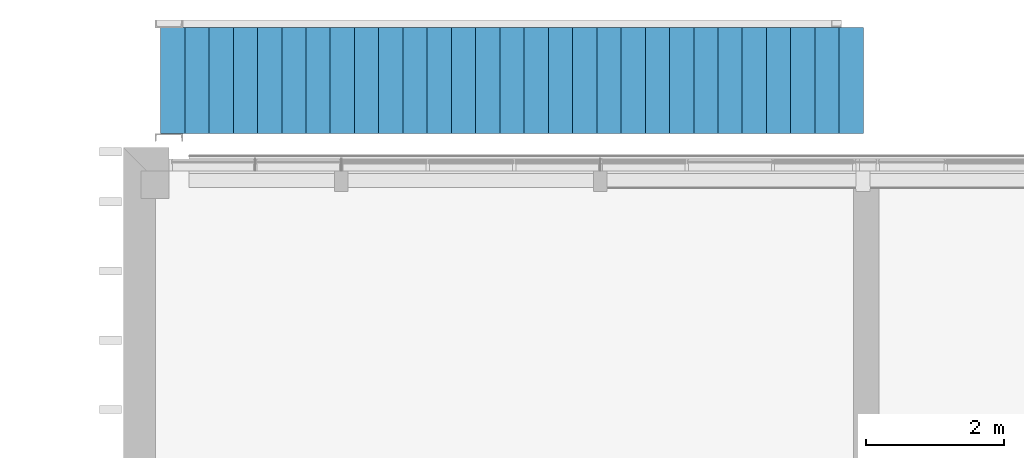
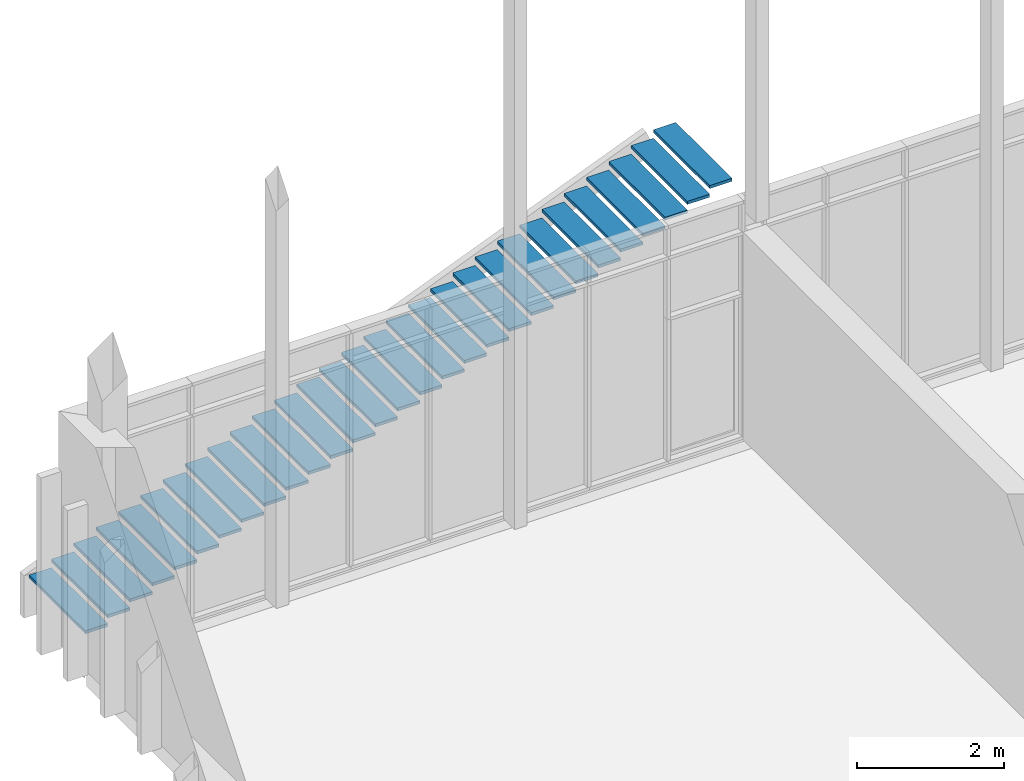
# One storey, part 48 of 89: 1 stair.
"""IFC2X3 building model written with IfcOpenShell, lengths in millimetres."""

from ifc_helpers import new_model, entity, si_unit, converted_unit, derived_unit, money_unit, direction, frame, origin_with_axes, place, context, subcontext, project, spatial, faceted_brep, material, material_list, element, save


model = new_model("IFC2X3")

# Units and contexts
model_context = context("Model", 3, precision=0.01, world=origin_with_axes(), true_north=direction((0.0, 1.0)))
body_context = subcontext(model_context, "Body", "Model", "MODEL_VIEW")
ifc_project = project(units=[si_unit("LENGTHUNIT", "METRE", prefix="MILLI"), si_unit("AREAUNIT", "SQUARE_METRE"), si_unit("VOLUMEUNIT", "CUBIC_METRE"), converted_unit("PLANEANGLEUNIT", "DEGREE", entity("IfcPlaneAngleMeasure", 0.0174532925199), si_unit("PLANEANGLEUNIT", "RADIAN"), dimensions=[0, 0, 0, 0, 0, 0, 0]), si_unit("SOLIDANGLEUNIT", "STERADIAN"), money_unit("EUR"), converted_unit("TIMEUNIT", "Year", entity("IfcTimeMeasure", 31556926.0), si_unit("TIMEUNIT", "SECOND"), dimensions=[0, 0, 1, 0, 0, 0, 0]), si_unit("MASSUNIT", "GRAM", prefix="KILO"), si_unit("THERMODYNAMICTEMPERATUREUNIT", "DEGREE_CELSIUS"), si_unit("LUMINOUSINTENSITYUNIT", "LUMEN"), si_unit("ENERGYUNIT", "JOULE", prefix="MEGA"), derived_unit("THERMALCONDUCTANCEUNIT", [(si_unit("POWERUNIT", "WATT"), 1), (si_unit("LENGTHUNIT", "METRE"), -1), (si_unit("THERMODYNAMICTEMPERATUREUNIT", "KELVIN"), -1)]), derived_unit("SPECIFICHEATCAPACITYUNIT", [(si_unit("ENERGYUNIT", "JOULE"), 1), (si_unit("MASSUNIT", "GRAM", prefix="KILO"), -1), (si_unit("THERMODYNAMICTEMPERATUREUNIT", "KELVIN"), -1)]), derived_unit("MASSDENSITYUNIT", [(si_unit("MASSUNIT", "GRAM", prefix="KILO"), 1), (si_unit("VOLUMEUNIT", "CUBIC_METRE"), -1)])], contexts=[model_context])

# Site, building, storey
site_placement = place(None, origin_with_axes())
site = spatial("IfcSite", under=ifc_project, at=site_placement, Name="Puškini 31, Narva", CompositionType="ELEMENT")
building_placement = place(site_placement, origin_with_axes())
building = spatial("IfcBuilding", under=site, at=building_placement, Name="Narva Riigigümnaasium", CompositionType="ELEMENT")
storey_placement = place(building_placement, frame((0.0, 0.0, -3300.0), z_axis=(0.0, 0.0, 1.0), x_axis=(1.0, 0.0, 0.0)))
storey = spatial("IfcBuildingStorey", under=building, at=storey_placement, Name="1.korrus -3.3", CompositionType="ELEMENT", Elevation=-3300.0)

# Stair
ifc_material = material(Name="ET-06_Teras - Konstruktsioon")
ifc_material_list = material_list([ifc_material, ifc_material, ifc_material, ifc_material, ifc_material, ifc_material, ifc_material, ifc_material, ifc_material, ifc_material, ifc_material, ifc_material, ifc_material, ifc_material, ifc_material, ifc_material, ifc_material, ifc_material, ifc_material, ifc_material, ifc_material, ifc_material, ifc_material, ifc_material, ifc_material, ifc_material, ifc_material, ifc_material, ifc_material])
stair_placement = place(storey_placement, frame((37480.0000007, 254770.0, -140.0), z_axis=(0.0, 0.0, 1.0), x_axis=(1.0, 0.0, 0.0)))
element("IfcStair", 1, at=stair_placement, inside=storey, material=ifc_material_list, Name="G-VTR-01", ShapeType="NOTDEFINED", context=body_context, shape_type="Brep", body=[
    faceted_brep([(0.0, 1530.0, 91.3793103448), (0.0, 0.0, 91.3793103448), (0.0, 0.0, 141.379310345), (0.0, 1530.0, 141.379310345), (350.0, 1530.0, 91.3793103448), (350.0, 0.0, 91.3793103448), (350.0, 0.0, 141.379310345), (350.0, 1530.0, 141.379310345)], [[[0, 1, 2, 3]], [[0, 4, 5, 1]], [[1, 5, 6, 2]], [[3, 2, 6, 7]], [[4, 0, 3, 7]], [[5, 4, 7, 6]]]),
    faceted_brep([(350.0, 1530.0, 232.75862069), (350.0, 0.0, 232.75862069), (350.0, 0.0, 282.75862069), (350.0, 1530.0, 282.75862069), (700.0, 1530.0, 232.75862069), (700.0, 0.0, 232.75862069), (700.0, 0.0, 282.75862069), (700.0, 1530.0, 282.75862069)], [[[0, 1, 2, 3]], [[0, 4, 5, 1]], [[1, 5, 6, 2]], [[3, 2, 6, 7]], [[4, 0, 3, 7]], [[5, 4, 7, 6]]]),
    faceted_brep([(700.0, 1530.0, 374.137931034), (700.0, 0.0, 374.137931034), (700.0, 0.0, 424.137931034), (700.0, 1530.0, 424.137931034), (1050.0, 1530.0, 374.137931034), (1050.0, 0.0, 374.137931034), (1050.0, 0.0, 424.137931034), (1050.0, 1530.0, 424.137931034)], [[[0, 1, 2, 3]], [[0, 4, 5, 1]], [[1, 5, 6, 2]], [[3, 2, 6, 7]], [[4, 0, 3, 7]], [[5, 4, 7, 6]]]),
    faceted_brep([(1050.0, 1530.0, 515.517241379), (1050.0, 0.0, 515.517241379), (1050.0, 0.0, 565.517241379), (1050.0, 1530.0, 565.517241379), (1400.0, 1530.0, 515.517241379), (1400.0, 0.0, 515.517241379), (1400.0, 0.0, 565.517241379), (1400.0, 1530.0, 565.517241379)], [[[0, 1, 2, 3]], [[0, 4, 5, 1]], [[1, 5, 6, 2]], [[3, 2, 6, 7]], [[4, 0, 3, 7]], [[5, 4, 7, 6]]]),
    faceted_brep([(1400.0, 1530.0, 656.896551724), (1400.0, 0.0, 656.896551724), (1400.0, 0.0, 706.896551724), (1400.0, 1530.0, 706.896551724), (1750.0, 1530.0, 656.896551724), (1750.0, 0.0, 656.896551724), (1750.0, 0.0, 706.896551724), (1750.0, 1530.0, 706.896551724)], [[[0, 1, 2, 3]], [[0, 4, 5, 1]], [[1, 5, 6, 2]], [[3, 2, 6, 7]], [[4, 0, 3, 7]], [[5, 4, 7, 6]]]),
    faceted_brep([(1750.0, 1530.0, 798.275862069), (1750.0, 0.0, 798.275862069), (1750.0, 0.0, 848.275862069), (1750.0, 1530.0, 848.275862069), (2100.0, 1530.0, 798.275862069), (2100.0, 0.0, 798.275862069), (2100.0, 0.0, 848.275862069), (2100.0, 1530.0, 848.275862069)], [[[0, 1, 2, 3]], [[0, 4, 5, 1]], [[1, 5, 6, 2]], [[3, 2, 6, 7]], [[4, 0, 3, 7]], [[5, 4, 7, 6]]]),
    faceted_brep([(2100.0, 1530.0, 939.655172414), (2100.0, 0.0, 939.655172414), (2100.0, 0.0, 989.655172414), (2100.0, 1530.0, 989.655172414), (2450.0, 1530.0, 939.655172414), (2450.0, 0.0, 939.655172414), (2450.0, 0.0, 989.655172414), (2450.0, 1530.0, 989.655172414)], [[[0, 1, 2, 3]], [[0, 4, 5, 1]], [[1, 5, 6, 2]], [[3, 2, 6, 7]], [[4, 0, 3, 7]], [[5, 4, 7, 6]]]),
    faceted_brep([(2450.0, 1530.0, 1081.03448276), (2450.0, 0.0, 1081.03448276), (2450.0, 0.0, 1131.03448276), (2450.0, 1530.0, 1131.03448276), (2800.0, 1530.0, 1081.03448276), (2800.0, 0.0, 1081.03448276), (2800.0, 0.0, 1131.03448276), (2800.0, 1530.0, 1131.03448276)], [[[0, 1, 2, 3]], [[0, 4, 5, 1]], [[1, 5, 6, 2]], [[3, 2, 6, 7]], [[4, 0, 3, 7]], [[5, 4, 7, 6]]]),
    faceted_brep([(2800.0, 1530.0, 1222.4137931), (2800.0, 0.0, 1222.4137931), (2800.0, 0.0, 1272.4137931), (2800.0, 1530.0, 1272.4137931), (3150.0, 1530.0, 1222.4137931), (3150.0, 0.0, 1222.4137931), (3150.0, 0.0, 1272.4137931), (3150.0, 1530.0, 1272.4137931)], [[[0, 1, 2, 3]], [[0, 4, 5, 1]], [[1, 5, 6, 2]], [[3, 2, 6, 7]], [[4, 0, 3, 7]], [[5, 4, 7, 6]]]),
    faceted_brep([(3150.0, 1530.0, 1363.79310345), (3150.0, 0.0, 1363.79310345), (3150.0, 0.0, 1413.79310345), (3150.0, 1530.0, 1413.79310345), (3500.0, 1530.0, 1363.79310345), (3500.0, 0.0, 1363.79310345), (3500.0, 0.0, 1413.79310345), (3500.0, 1530.0, 1413.79310345)], [[[0, 1, 2, 3]], [[0, 4, 5, 1]], [[1, 5, 6, 2]], [[3, 2, 6, 7]], [[4, 0, 3, 7]], [[5, 4, 7, 6]]]),
    faceted_brep([(3500.0, 1530.0, 1505.17241379), (3500.0, 0.0, 1505.17241379), (3500.0, 0.0, 1555.17241379), (3500.0, 1530.0, 1555.17241379), (3850.0, 1530.0, 1505.17241379), (3850.0, 0.0, 1505.17241379), (3850.0, 0.0, 1555.17241379), (3850.0, 1530.0, 1555.17241379)], [[[0, 1, 2, 3]], [[0, 4, 5, 1]], [[1, 5, 6, 2]], [[3, 2, 6, 7]], [[4, 0, 3, 7]], [[5, 4, 7, 6]]]),
    faceted_brep([(3850.0, 1530.0, 1646.55172414), (3850.0, 0.0, 1646.55172414), (3850.0, 0.0, 1696.55172414), (3850.0, 1530.0, 1696.55172414), (4200.0, 1530.0, 1646.55172414), (4200.0, 0.0, 1646.55172414), (4200.0, 0.0, 1696.55172414), (4200.0, 1530.0, 1696.55172414)], [[[0, 1, 2, 3]], [[0, 4, 5, 1]], [[1, 5, 6, 2]], [[3, 2, 6, 7]], [[4, 0, 3, 7]], [[5, 4, 7, 6]]]),
    faceted_brep([(4200.0, 1530.0, 1787.93103448), (4200.0, 0.0, 1787.93103448), (4200.0, 0.0, 1837.93103448), (4200.0, 1530.0, 1837.93103448), (4550.0, 1530.0, 1787.93103448), (4550.0, 0.0, 1787.93103448), (4550.0, 0.0, 1837.93103448), (4550.0, 1530.0, 1837.93103448)], [[[0, 1, 2, 3]], [[0, 4, 5, 1]], [[1, 5, 6, 2]], [[3, 2, 6, 7]], [[4, 0, 3, 7]], [[5, 4, 7, 6]]]),
    faceted_brep([(4550.0, 1530.0, 1929.31034483), (4550.0, 0.0, 1929.31034483), (4550.0, 0.0, 1979.31034483), (4550.0, 1530.0, 1979.31034483), (4900.0, 1530.0, 1929.31034483), (4900.0, 0.0, 1929.31034483), (4900.0, 0.0, 1979.31034483), (4900.0, 1530.0, 1979.31034483)], [[[0, 1, 2, 3]], [[0, 4, 5, 1]], [[1, 5, 6, 2]], [[3, 2, 6, 7]], [[4, 0, 3, 7]], [[5, 4, 7, 6]]]),
    faceted_brep([(4900.0, 1530.0, 2070.68965517), (4900.0, 0.0, 2070.68965517), (4900.0, 0.0, 2120.68965517), (4900.0, 1530.0, 2120.68965517), (5250.0, 1530.0, 2070.68965517), (5250.0, 0.0, 2070.68965517), (5250.0, 0.0, 2120.68965517), (5250.0, 1530.0, 2120.68965517)], [[[0, 1, 2, 3]], [[0, 4, 5, 1]], [[1, 5, 6, 2]], [[3, 2, 6, 7]], [[4, 0, 3, 7]], [[5, 4, 7, 6]]]),
    faceted_brep([(5250.0, 1530.0, 2212.06896552), (5250.0, 0.0, 2212.06896552), (5250.0, 0.0, 2262.06896552), (5250.0, 1530.0, 2262.06896552), (5600.0, 1530.0, 2212.06896552), (5600.0, 0.0, 2212.06896552), (5600.0, 0.0, 2262.06896552), (5600.0, 1530.0, 2262.06896552)], [[[0, 1, 2, 3]], [[0, 4, 5, 1]], [[1, 5, 6, 2]], [[3, 2, 6, 7]], [[4, 0, 3, 7]], [[5, 4, 7, 6]]]),
    faceted_brep([(5600.0, 1530.0, 2353.44827586), (5600.0, 0.0, 2353.44827586), (5600.0, 0.0, 2403.44827586), (5600.0, 1530.0, 2403.44827586), (5950.0, 1530.0, 2353.44827586), (5950.0, 0.0, 2353.44827586), (5950.0, 0.0, 2403.44827586), (5950.0, 1530.0, 2403.44827586)], [[[0, 1, 2, 3]], [[0, 4, 5, 1]], [[1, 5, 6, 2]], [[3, 2, 6, 7]], [[4, 0, 3, 7]], [[5, 4, 7, 6]]]),
    faceted_brep([(5950.0, 1530.0, 2494.82758621), (5950.0, 0.0, 2494.82758621), (5950.0, 0.0, 2544.82758621), (5950.0, 1530.0, 2544.82758621), (6300.0, 1530.0, 2494.82758621), (6300.0, 0.0, 2494.82758621), (6300.0, 0.0, 2544.82758621), (6300.0, 1530.0, 2544.82758621)], [[[0, 1, 2, 3]], [[0, 4, 5, 1]], [[1, 5, 6, 2]], [[3, 2, 6, 7]], [[4, 0, 3, 7]], [[5, 4, 7, 6]]]),
    faceted_brep([(6300.0, 1530.0, 2636.20689655), (6300.0, 0.0, 2636.20689655), (6300.0, 0.0, 2686.20689655), (6300.0, 1530.0, 2686.20689655), (6650.0, 1530.0, 2636.20689655), (6650.0, 0.0, 2636.20689655), (6650.0, 0.0, 2686.20689655), (6650.0, 1530.0, 2686.20689655)], [[[0, 1, 2, 3]], [[0, 4, 5, 1]], [[1, 5, 6, 2]], [[3, 2, 6, 7]], [[4, 0, 3, 7]], [[5, 4, 7, 6]]]),
    faceted_brep([(6650.0, 1530.0, 2777.5862069), (6650.0, 0.0, 2777.5862069), (6650.0, 0.0, 2827.5862069), (6650.0, 1530.0, 2827.5862069), (7000.0, 1530.0, 2777.5862069), (7000.0, 0.0, 2777.5862069), (7000.0, 0.0, 2827.5862069), (7000.0, 1530.0, 2827.5862069)], [[[0, 1, 2, 3]], [[0, 4, 5, 1]], [[1, 5, 6, 2]], [[3, 2, 6, 7]], [[4, 0, 3, 7]], [[5, 4, 7, 6]]]),
    faceted_brep([(7000.0, 1530.0, 2918.96551724), (7000.0, 0.0, 2918.96551724), (7000.0, 0.0, 2968.96551724), (7000.0, 1530.0, 2968.96551724), (7350.0, 1530.0, 2918.96551724), (7350.0, 0.0, 2918.96551724), (7350.0, 0.0, 2968.96551724), (7350.0, 1530.0, 2968.96551724)], [[[0, 1, 2, 3]], [[0, 4, 5, 1]], [[1, 5, 6, 2]], [[3, 2, 6, 7]], [[4, 0, 3, 7]], [[5, 4, 7, 6]]]),
    faceted_brep([(7350.0, 1530.0, 3060.34482759), (7350.0, 0.0, 3060.34482759), (7350.0, 0.0, 3110.34482759), (7350.0, 1530.0, 3110.34482759), (7700.0, 1530.0, 3060.34482759), (7700.0, 0.0, 3060.34482759), (7700.0, 0.0, 3110.34482759), (7700.0, 1530.0, 3110.34482759)], [[[0, 1, 2, 3]], [[0, 4, 5, 1]], [[1, 5, 6, 2]], [[3, 2, 6, 7]], [[4, 0, 3, 7]], [[5, 4, 7, 6]]]),
    faceted_brep([(7700.0, 1530.0, 3201.72413793), (7700.0, 0.0, 3201.72413793), (7700.0, 0.0, 3251.72413793), (7700.0, 1530.0, 3251.72413793), (8050.0, 1530.0, 3201.72413793), (8050.0, 0.0, 3201.72413793), (8050.0, 0.0, 3251.72413793), (8050.0, 1530.0, 3251.72413793)], [[[0, 1, 2, 3]], [[0, 4, 5, 1]], [[1, 5, 6, 2]], [[3, 2, 6, 7]], [[4, 0, 3, 7]], [[5, 4, 7, 6]]]),
    faceted_brep([(8050.0, 1530.0, 3343.10344828), (8050.0, 0.0, 3343.10344828), (8050.0, 0.0, 3393.10344828), (8050.0, 1530.0, 3393.10344828), (8400.0, 1530.0, 3343.10344828), (8400.0, 0.0, 3343.10344828), (8400.0, 0.0, 3393.10344828), (8400.0, 1530.0, 3393.10344828)], [[[0, 1, 2, 3]], [[0, 4, 5, 1]], [[1, 5, 6, 2]], [[3, 2, 6, 7]], [[4, 0, 3, 7]], [[5, 4, 7, 6]]]),
    faceted_brep([(8400.0, 1530.0, 3484.48275862), (8400.0, 0.0, 3484.48275862), (8400.0, 0.0, 3534.48275862), (8400.0, 1530.0, 3534.48275862), (8750.0, 1530.0, 3484.48275862), (8750.0, 0.0, 3484.48275862), (8750.0, 0.0, 3534.48275862), (8750.0, 1530.0, 3534.48275862)], [[[0, 1, 2, 3]], [[0, 4, 5, 1]], [[1, 5, 6, 2]], [[3, 2, 6, 7]], [[4, 0, 3, 7]], [[5, 4, 7, 6]]]),
    faceted_brep([(8750.0, 1530.0, 3625.86206897), (8750.0, 0.0, 3625.86206897), (8750.0, 0.0, 3675.86206897), (8750.0, 1530.0, 3675.86206897), (9100.0, 1530.0, 3625.86206897), (9100.0, 0.0, 3625.86206897), (9100.0, 0.0, 3675.86206897), (9100.0, 1530.0, 3675.86206897)], [[[0, 1, 2, 3]], [[0, 4, 5, 1]], [[1, 5, 6, 2]], [[3, 2, 6, 7]], [[4, 0, 3, 7]], [[5, 4, 7, 6]]]),
    faceted_brep([(9100.0, 1530.0, 3767.24137931), (9100.0, 0.0, 3767.24137931), (9100.0, 0.0, 3817.24137931), (9100.0, 1530.0, 3817.24137931), (9450.0, 1530.0, 3767.24137931), (9450.0, 0.0, 3767.24137931), (9450.0, 0.0, 3817.24137931), (9450.0, 1530.0, 3817.24137931)], [[[0, 1, 2, 3]], [[0, 4, 5, 1]], [[1, 5, 6, 2]], [[3, 2, 6, 7]], [[4, 0, 3, 7]], [[5, 4, 7, 6]]]),
    faceted_brep([(9450.0, 1530.0, 3908.62068966), (9450.0, 0.0, 3908.62068966), (9450.0, 0.0, 3958.62068966), (9450.0, 1530.0, 3958.62068966), (9800.0, 1530.0, 3908.62068966), (9800.0, 0.0, 3908.62068966), (9800.0, 0.0, 3958.62068966), (9800.0, 1530.0, 3958.62068966)], [[[0, 1, 2, 3]], [[0, 4, 5, 1]], [[1, 5, 6, 2]], [[3, 2, 6, 7]], [[4, 0, 3, 7]], [[5, 4, 7, 6]]]),
    faceted_brep([(9800.0, 1530.0, 4050.0), (9800.0, 0.0, 4050.0), (9800.0, 0.0, 4100.0), (9800.0, 1530.0, 4100.0), (10150.0, 1530.0, 4050.0), (10150.0, 0.0, 4050.0), (10150.0, 0.0, 4100.0), (10150.0, 1530.0, 4100.0)], [[[0, 1, 2, 3]], [[0, 4, 5, 1]], [[1, 5, 6, 2]], [[3, 2, 6, 7]], [[4, 0, 3, 7]], [[5, 4, 7, 6]]]),
])

save(model, "model.ifc")
